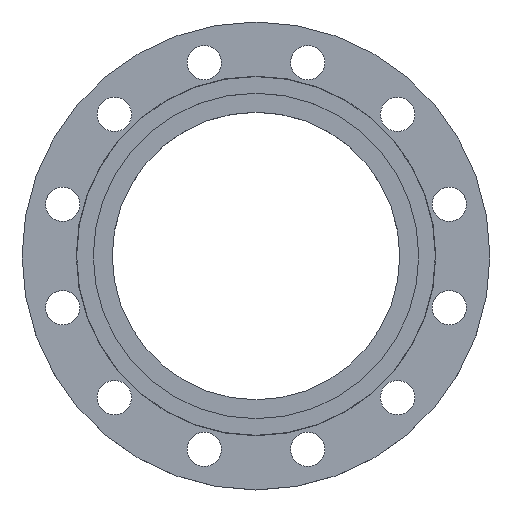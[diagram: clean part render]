
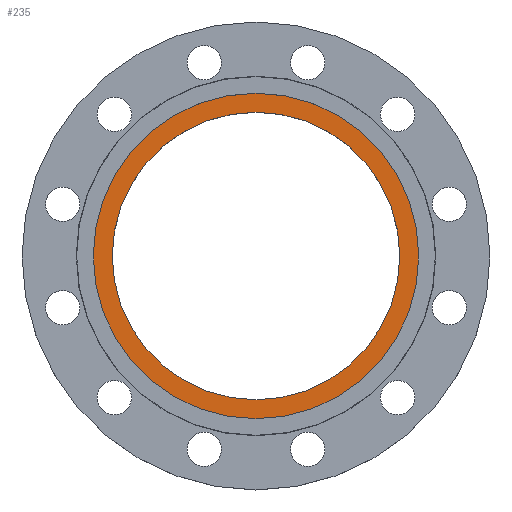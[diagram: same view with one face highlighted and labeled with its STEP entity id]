
A CAD part, top view. The second image highlights one B-rep face of the part: STEP entity #235.
In plain terms, the highlighted planar face has unit normal (0, 0, 1).
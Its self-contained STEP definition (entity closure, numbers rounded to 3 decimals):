
#31 = CARTESIAN_POINT ( 'NONE',  ( -156.5, 0., -4.5 ) ) ;
#70 = CARTESIAN_POINT ( 'NONE',  ( 156.5, 0., -4.5 ) ) ;
#82 = CARTESIAN_POINT ( 'NONE',  ( 138.25, 0., -4.5 ) ) ;
#134 = DIRECTION ( 'NONE',  ( 0., 0., -1. ) ) ;
#135 = CARTESIAN_POINT ( 'NONE',  ( 0., 0., -4.5 ) ) ;
#136 = DIRECTION ( 'NONE',  ( -1., 0., 0. ) ) ;
#154 = AXIS2_PLACEMENT_3D ( 'NONE', #341, #340, #339 ) ;
#204 = DIRECTION ( 'NONE',  ( -1., 0., 0. ) ) ;
#205 = DIRECTION ( 'NONE',  ( 0., 0., -1. ) ) ;
#206 = CARTESIAN_POINT ( 'NONE',  ( 0., 0., -4.5 ) ) ;
#235 = ADVANCED_FACE ( 'NONE', ( #793, #792 ), #791, .T. ) ;
#287 = EDGE_CURVE ( 'NONE', #887, #1303, #966, .T. ) ;
#310 = AXIS2_PLACEMENT_3D ( 'NONE', #206, #205, #204 ) ;
#323 = CIRCLE ( 'NONE', #310, 156.5 ) ;
#339 = DIRECTION ( 'NONE',  ( 1., 0., 0. ) ) ;
#340 = DIRECTION ( 'NONE',  ( 0., 0., 1. ) ) ;
#341 = CARTESIAN_POINT ( 'NONE',  ( 0., 0., -4.5 ) ) ;
#499 = CIRCLE ( 'NONE', #154, 138.25 ) ;
#607 = CARTESIAN_POINT ( 'NONE',  ( -138.25, 0., -4.5 ) ) ;
#689 = CIRCLE ( 'NONE', #692, 156.5 ) ;
#692 = AXIS2_PLACEMENT_3D ( 'NONE', #135, #134, #136 ) ;
#761 = DIRECTION ( 'NONE',  ( 1., 0., 0. ) ) ;
#762 = DIRECTION ( 'NONE',  ( 0., 0., 1. ) ) ;
#763 = CARTESIAN_POINT ( 'NONE',  ( 0., 0., -4.5 ) ) ;
#788 = DIRECTION ( 'NONE',  ( 1., 0., 0. ) ) ;
#789 = DIRECTION ( 'NONE',  ( 0., 0., 1. ) ) ;
#790 = CARTESIAN_POINT ( 'NONE',  ( 156.5, 0., -4.5 ) ) ;
#791 = PLANE ( 'NONE',  #1006 ) ;
#792 = FACE_OUTER_BOUND ( 'NONE', #877, .T. ) ;
#793 = FACE_BOUND ( 'NONE', #1254, .T. ) ;
#877 = EDGE_LOOP ( 'NONE', ( #1133, #1134 ) ) ;
#887 = VERTEX_POINT ( 'NONE', #607 ) ;
#965 = AXIS2_PLACEMENT_3D ( 'NONE', #763, #762, #761 ) ;
#966 = CIRCLE ( 'NONE', #965, 138.25 ) ;
#1006 = AXIS2_PLACEMENT_3D ( 'NONE', #790, #789, #788 ) ;
#1074 = EDGE_CURVE ( 'NONE', #1303, #887, #499, .T. ) ;
#1130 = ORIENTED_EDGE ( 'NONE', *, *, #1074, .F. ) ;
#1132 = ORIENTED_EDGE ( 'NONE', *, *, #287, .F. ) ;
#1133 = ORIENTED_EDGE ( 'NONE', *, *, #1194, .F. ) ;
#1134 = ORIENTED_EDGE ( 'NONE', *, *, #1282, .F. ) ;
#1194 = EDGE_CURVE ( 'NONE', #1351, #1317, #323, .T. ) ;
#1254 = EDGE_LOOP ( 'NONE', ( #1130, #1132 ) ) ;
#1282 = EDGE_CURVE ( 'NONE', #1317, #1351, #689, .T. ) ;
#1303 = VERTEX_POINT ( 'NONE', #82 ) ;
#1317 = VERTEX_POINT ( 'NONE', #70 ) ;
#1351 = VERTEX_POINT ( 'NONE', #31 ) ;
